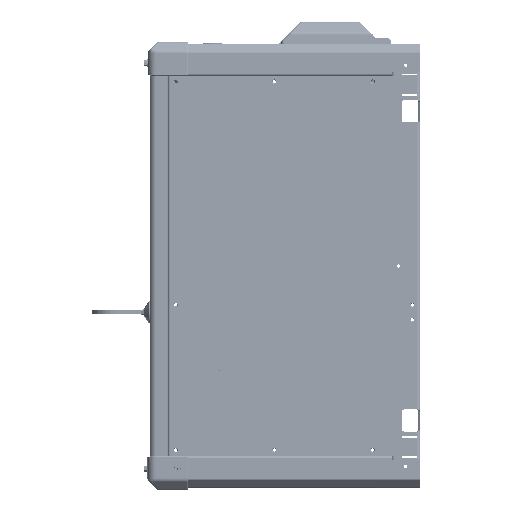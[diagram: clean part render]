
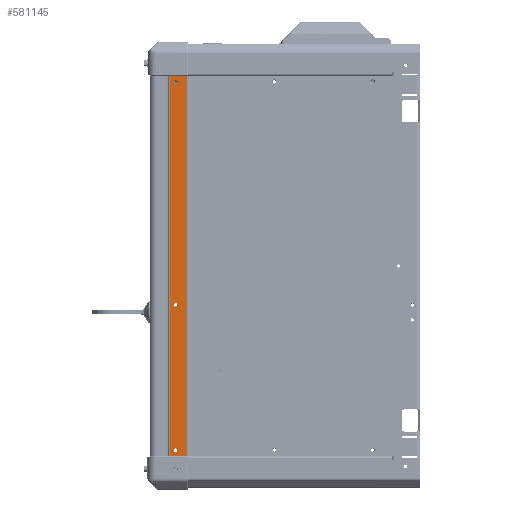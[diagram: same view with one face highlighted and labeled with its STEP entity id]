
A CAD part, left-side view. The second image highlights one B-rep face of the part: STEP entity #581145.
In plain terms, the highlighted planar face has unit normal (-1, 0, 0).
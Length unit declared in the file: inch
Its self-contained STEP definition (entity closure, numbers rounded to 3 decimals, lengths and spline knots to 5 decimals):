
#5136 = AXIS2_PLACEMENT_3D ( 'NONE', #609419, #87399, #587742 ) ;
#14363 = DIRECTION ( 'NONE',  ( 1., 0., 0. ) ) ;
#31345 = CARTESIAN_POINT ( 'NONE',  ( -7.77, -1.38649, 12.8885 ) ) ;
#62852 = DIRECTION ( 'NONE',  ( 0., -1., 0. ) ) ;
#68948 = VERTEX_POINT ( 'NONE', #972011 ) ;
#71402 = ORIENTED_EDGE ( 'NONE', *, *, #634651, .F. ) ;
#87399 = DIRECTION ( 'NONE',  ( 1., 0., 0. ) ) ;
#91386 = CARTESIAN_POINT ( 'NONE',  ( -7.77, -1.782, -2.6495 ) ) ;
#105807 = DIRECTION ( 'NONE',  ( 1., 0., 0. ) ) ;
#110524 = EDGE_CURVE ( 'NONE', #667486, #575081, #935557, .T. ) ;
#112349 = VERTEX_POINT ( 'NONE', #821049 ) ;
#155619 = VERTEX_POINT ( 'NONE', #336653 ) ;
#159855 = CIRCLE ( 'NONE', #514678, 0.1405 ) ;
#162912 = EDGE_LOOP ( 'NONE', ( #726891, #504679 ) ) ;
#192014 = CIRCLE ( 'NONE', #755400, 0.1405 ) ;
#193275 = FACE_BOUND ( 'NONE', #429469, .T. ) ;
#198222 = EDGE_CURVE ( 'NONE', #682284, #155619, #689325, .T. ) ;
#231590 = EDGE_CURVE ( 'NONE', #497874, #981884, #331726, .T. ) ;
#232369 = CARTESIAN_POINT ( 'NONE',  ( -7.77, -1.38649, 0. ) ) ;
#236084 = DIRECTION ( 'NONE',  ( 0., 0., 1. ) ) ;
#241171 = FACE_OUTER_BOUND ( 'NONE', #303726, .T. ) ;
#245943 = CARTESIAN_POINT ( 'NONE',  ( -7.77, -1.782, -12.5085 ) ) ;
#259506 = CARTESIAN_POINT ( 'NONE',  ( -7.77, -1.782, -2.6495 ) ) ;
#274236 = CARTESIAN_POINT ( 'NONE',  ( -7.77, -1.782, 12.649 ) ) ;
#285874 = AXIS2_PLACEMENT_3D ( 'NONE', #91386, #14363, #619935 ) ;
#303726 = EDGE_LOOP ( 'NONE', ( #369554, #71402, #386464, #768956 ) ) ;
#306193 = DIRECTION ( 'NONE',  ( 0., 0., -1. ) ) ;
#325368 = LINE ( 'NONE', #465474, #504861 ) ;
#331726 = LINE ( 'NONE', #855457, #965714 ) ;
#336653 = CARTESIAN_POINT ( 'NONE',  ( -7.77, -1.782, 12.368 ) ) ;
#354664 = CARTESIAN_POINT ( 'NONE',  ( -7.77, -2.575, 12.8885 ) ) ;
#369554 = ORIENTED_EDGE ( 'NONE', *, *, #726962, .T. ) ;
#386464 = ORIENTED_EDGE ( 'NONE', *, *, #231590, .F. ) ;
#392842 = VERTEX_POINT ( 'NONE', #31345 ) ;
#398778 = CARTESIAN_POINT ( 'NONE',  ( -7.77, -1.782, -12.368 ) ) ;
#400721 = CIRCLE ( 'NONE', #285874, 0.1405 ) ;
#404419 = EDGE_CURVE ( 'NONE', #392842, #497874, #869472, .T. ) ;
#405541 = ORIENTED_EDGE ( 'NONE', *, *, #843102, .T. ) ;
#411955 = CARTESIAN_POINT ( 'NONE',  ( -7.77, -1.782, -12.5085 ) ) ;
#429469 = EDGE_LOOP ( 'NONE', ( #757602, #793559 ) ) ;
#465474 = CARTESIAN_POINT ( 'NONE',  ( -7.77, -0.06301, -12.8885 ) ) ;
#467423 = EDGE_CURVE ( 'NONE', #68948, #815075, #159855, .T. ) ;
#485562 = DIRECTION ( 'NONE',  ( 0., 0., 1. ) ) ;
#486019 = DIRECTION ( 'NONE',  ( 0., 0., -1. ) ) ;
#489695 = PLANE ( 'NONE',  #5136 ) ;
#497874 = VERTEX_POINT ( 'NONE', #354664 ) ;
#504679 = ORIENTED_EDGE ( 'NONE', *, *, #467423, .T. ) ;
#504861 = VECTOR ( 'NONE', #622455, 39.37008 ) ;
#514678 = AXIS2_PLACEMENT_3D ( 'NONE', #259506, #105807, #881200 ) ;
#570817 = LINE ( 'NONE', #232369, #642841 ) ;
#575081 = VERTEX_POINT ( 'NONE', #693340 ) ;
#576162 = EDGE_CURVE ( 'NONE', #575081, #667486, #844620, .T. ) ;
#581145 = ADVANCED_FACE ( 'NONE', ( #193275, #839903, #636713, #241171 ), #489695, .F. ) ;
#587742 = DIRECTION ( 'NONE',  ( 0., -1., 0. ) ) ;
#609419 = CARTESIAN_POINT ( 'NONE',  ( -7.77, 0.01699, 0. ) ) ;
#619935 = DIRECTION ( 'NONE',  ( 0., 0., -1. ) ) ;
#620742 = DIRECTION ( 'NONE',  ( 1., 0., 0. ) ) ;
#622455 = DIRECTION ( 'NONE',  ( 0., 1., 0. ) ) ;
#633026 = CARTESIAN_POINT ( 'NONE',  ( -7.77, -1.782, 12.5085 ) ) ;
#634651 = EDGE_CURVE ( 'NONE', #981884, #112349, #325368, .T. ) ;
#636713 = FACE_BOUND ( 'NONE', #846563, .T. ) ;
#642841 = VECTOR ( 'NONE', #306193, 39.37008 ) ;
#643151 = CARTESIAN_POINT ( 'NONE',  ( -7.77, -1.782, 12.5085 ) ) ;
#645487 = EDGE_CURVE ( 'NONE', #815075, #68948, #400721, .T. ) ;
#649757 = DIRECTION ( 'NONE',  ( 1., 0., 0. ) ) ;
#662144 = AXIS2_PLACEMENT_3D ( 'NONE', #643151, #649757, #486019 ) ;
#666292 = VECTOR ( 'NONE', #62852, 39.37008 ) ;
#667486 = VERTEX_POINT ( 'NONE', #398778 ) ;
#671716 = CARTESIAN_POINT ( 'NONE',  ( -7.77, -2.55801, 12.8885 ) ) ;
#682284 = VERTEX_POINT ( 'NONE', #274236 ) ;
#689325 = CIRCLE ( 'NONE', #662144, 0.1405 ) ;
#692101 = ORIENTED_EDGE ( 'NONE', *, *, #198222, .T. ) ;
#693340 = CARTESIAN_POINT ( 'NONE',  ( -7.77, -1.782, -12.649 ) ) ;
#705200 = DIRECTION ( 'NONE',  ( 0., 0., -1. ) ) ;
#709565 = DIRECTION ( 'NONE',  ( 1., 0., 0. ) ) ;
#726891 = ORIENTED_EDGE ( 'NONE', *, *, #645487, .T. ) ;
#726962 = EDGE_CURVE ( 'NONE', #392842, #112349, #570817, .T. ) ;
#748031 = AXIS2_PLACEMENT_3D ( 'NONE', #245943, #620742, #236084 ) ;
#755400 = AXIS2_PLACEMENT_3D ( 'NONE', #633026, #947137, #943848 ) ;
#757602 = ORIENTED_EDGE ( 'NONE', *, *, #576162, .T. ) ;
#768956 = ORIENTED_EDGE ( 'NONE', *, *, #404419, .F. ) ;
#793559 = ORIENTED_EDGE ( 'NONE', *, *, #110524, .T. ) ;
#814293 = CARTESIAN_POINT ( 'NONE',  ( -7.77, -1.782, -2.79 ) ) ;
#815075 = VERTEX_POINT ( 'NONE', #814293 ) ;
#821049 = CARTESIAN_POINT ( 'NONE',  ( -7.77, -1.38649, -12.8885 ) ) ;
#839903 = FACE_BOUND ( 'NONE', #162912, .T. ) ;
#843102 = EDGE_CURVE ( 'NONE', #155619, #682284, #192014, .T. ) ;
#844620 = CIRCLE ( 'NONE', #922282, 0.1405 ) ;
#846563 = EDGE_LOOP ( 'NONE', ( #405541, #692101 ) ) ;
#855457 = CARTESIAN_POINT ( 'NONE',  ( -7.77, -2.575, -12.8885 ) ) ;
#869472 = LINE ( 'NONE', #671716, #666292 ) ;
#881200 = DIRECTION ( 'NONE',  ( 0., 0., -1. ) ) ;
#922282 = AXIS2_PLACEMENT_3D ( 'NONE', #411955, #709565, #485562 ) ;
#935557 = CIRCLE ( 'NONE', #748031, 0.1405 ) ;
#943848 = DIRECTION ( 'NONE',  ( 0., 0., -1. ) ) ;
#947137 = DIRECTION ( 'NONE',  ( 1., 0., 0. ) ) ;
#965714 = VECTOR ( 'NONE', #705200, 39.37008 ) ;
#967688 = CARTESIAN_POINT ( 'NONE',  ( -7.77, -2.575, -12.8885 ) ) ;
#972011 = CARTESIAN_POINT ( 'NONE',  ( -7.77, -1.782, -2.509 ) ) ;
#981884 = VERTEX_POINT ( 'NONE', #967688 ) ;
